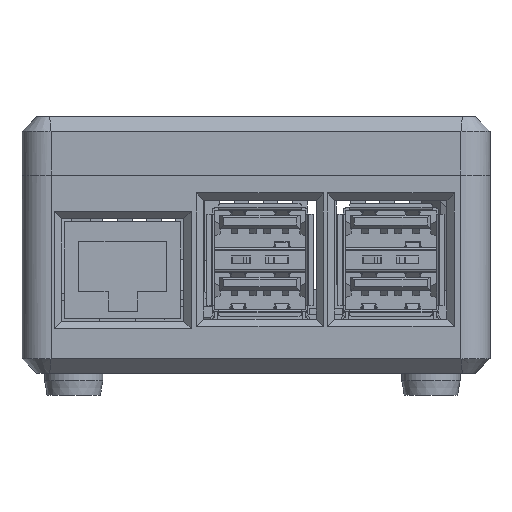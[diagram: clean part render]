
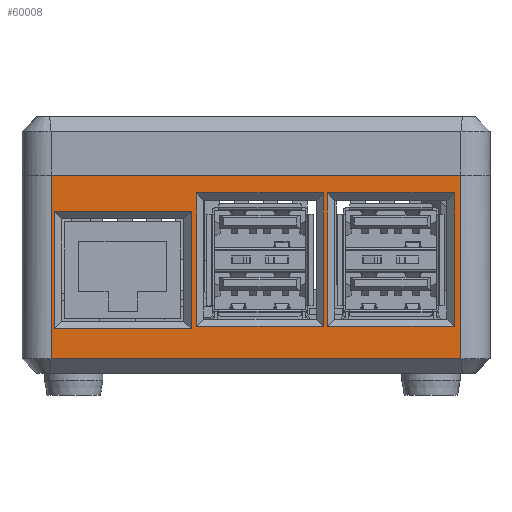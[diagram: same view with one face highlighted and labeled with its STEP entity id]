
A CAD part, front view. The second image highlights one B-rep face of the part: STEP entity #60008.
In plain terms, the highlighted planar face has unit normal (0, -1, 0).
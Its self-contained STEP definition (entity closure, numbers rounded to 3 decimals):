
#880=FACE_BOUND('',#9638,.T.);
#881=FACE_BOUND('',#9639,.T.);
#882=FACE_BOUND('',#9640,.T.);
#6100=FACE_OUTER_BOUND('',#9637,.T.);
#9637=EDGE_LOOP('',(#54206,#54207,#54208,#54209));
#9638=EDGE_LOOP('',(#54210,#54211,#54212,#54213));
#9639=EDGE_LOOP('',(#54214,#54215,#54216,#54217));
#9640=EDGE_LOOP('',(#54218,#54219,#54220,#54221));
#16246=LINE('',#98081,#23169);
#16537=LINE('',#98821,#23460);
#16541=LINE('',#98830,#23464);
#16545=LINE('',#98835,#23468);
#16546=LINE('',#98837,#23469);
#16549=LINE('',#98843,#23472);
#16550=LINE('',#98845,#23473);
#16551=LINE('',#98846,#23474);
#16552=LINE('',#98849,#23475);
#16553=LINE('',#98851,#23476);
#16554=LINE('',#98853,#23477);
#16555=LINE('',#98854,#23478);
#16556=LINE('',#98857,#23479);
#16557=LINE('',#98859,#23480);
#16558=LINE('',#98861,#23481);
#16559=LINE('',#98862,#23482);
#23169=VECTOR('',#80127,10.);
#23460=VECTOR('',#80884,10.);
#23464=VECTOR('',#80890,10.);
#23468=VECTOR('',#80896,10.);
#23469=VECTOR('',#80899,10.);
#23472=VECTOR('',#80906,10.);
#23473=VECTOR('',#80907,10.);
#23474=VECTOR('',#80908,10.);
#23475=VECTOR('',#80909,10.);
#23476=VECTOR('',#80910,10.);
#23477=VECTOR('',#80911,10.);
#23478=VECTOR('',#80912,10.);
#23479=VECTOR('',#80913,10.);
#23480=VECTOR('',#80914,10.);
#23481=VECTOR('',#80915,10.);
#23482=VECTOR('',#80916,10.);
#28888=VERTEX_POINT('',#98078);
#28889=VERTEX_POINT('',#98080);
#29086=VERTEX_POINT('',#98819);
#29087=VERTEX_POINT('',#98820);
#29090=VERTEX_POINT('',#98828);
#29091=VERTEX_POINT('',#98829);
#29092=VERTEX_POINT('',#98842);
#29093=VERTEX_POINT('',#98844);
#29094=VERTEX_POINT('',#98847);
#29095=VERTEX_POINT('',#98848);
#29096=VERTEX_POINT('',#98850);
#29097=VERTEX_POINT('',#98852);
#29098=VERTEX_POINT('',#98855);
#29099=VERTEX_POINT('',#98856);
#29100=VERTEX_POINT('',#98858);
#29101=VERTEX_POINT('',#98860);
#37139=EDGE_CURVE('',#28889,#28888,#16246,.T.);
#37501=EDGE_CURVE('',#29086,#29087,#16537,.T.);
#37505=EDGE_CURVE('',#29090,#29091,#16541,.T.);
#37509=EDGE_CURVE('',#29091,#29086,#16545,.T.);
#37510=EDGE_CURVE('',#29087,#29090,#16546,.T.);
#37513=EDGE_CURVE('',#29092,#28888,#16549,.T.);
#37514=EDGE_CURVE('',#29093,#29092,#16550,.T.);
#37515=EDGE_CURVE('',#28889,#29093,#16551,.T.);
#37516=EDGE_CURVE('',#29094,#29095,#16552,.T.);
#37517=EDGE_CURVE('',#29096,#29094,#16553,.T.);
#37518=EDGE_CURVE('',#29097,#29096,#16554,.T.);
#37519=EDGE_CURVE('',#29095,#29097,#16555,.T.);
#37520=EDGE_CURVE('',#29098,#29099,#16556,.T.);
#37521=EDGE_CURVE('',#29100,#29098,#16557,.T.);
#37522=EDGE_CURVE('',#29101,#29100,#16558,.T.);
#37523=EDGE_CURVE('',#29099,#29101,#16559,.T.);
#54206=ORIENTED_EDGE('',*,*,#37139,.T.);
#54207=ORIENTED_EDGE('',*,*,#37513,.F.);
#54208=ORIENTED_EDGE('',*,*,#37514,.F.);
#54209=ORIENTED_EDGE('',*,*,#37515,.F.);
#54210=ORIENTED_EDGE('',*,*,#37516,.F.);
#54211=ORIENTED_EDGE('',*,*,#37517,.F.);
#54212=ORIENTED_EDGE('',*,*,#37518,.F.);
#54213=ORIENTED_EDGE('',*,*,#37519,.F.);
#54214=ORIENTED_EDGE('',*,*,#37520,.F.);
#54215=ORIENTED_EDGE('',*,*,#37521,.F.);
#54216=ORIENTED_EDGE('',*,*,#37522,.F.);
#54217=ORIENTED_EDGE('',*,*,#37523,.F.);
#54218=ORIENTED_EDGE('',*,*,#37505,.F.);
#54219=ORIENTED_EDGE('',*,*,#37510,.F.);
#54220=ORIENTED_EDGE('',*,*,#37501,.F.);
#54221=ORIENTED_EDGE('',*,*,#37509,.F.);
#56918=PLANE('',#64900);
#60008=ADVANCED_FACE('',(#6100,#880,#881,#882),#56918,.T.);
#64900=AXIS2_PLACEMENT_3D('',#98841,#80904,#80905);
#80127=DIRECTION('',(-1.,0.,0.));
#80884=DIRECTION('',(0.,0.,1.));
#80890=DIRECTION('',(0.,0.,-1.));
#80896=DIRECTION('',(1.,0.,0.));
#80899=DIRECTION('',(-1.,0.,0.));
#80904=DIRECTION('center_axis',(0.,-1.,0.));
#80905=DIRECTION('ref_axis',(1.,0.,0.));
#80906=DIRECTION('',(0.,0.,1.));
#80907=DIRECTION('',(-1.,0.,0.));
#80908=DIRECTION('',(0.,0.,-1.));
#80909=DIRECTION('',(0.,0.,-1.));
#80910=DIRECTION('',(-1.,0.,0.));
#80911=DIRECTION('',(0.,0.,1.));
#80912=DIRECTION('',(1.,0.,0.));
#80913=DIRECTION('',(1.,0.,0.));
#80914=DIRECTION('',(0.,0.,-1.));
#80915=DIRECTION('',(-1.,0.,0.));
#80916=DIRECTION('',(0.,0.,1.));
#98078=CARTESIAN_POINT('',(-27.6,-47.,21.8));
#98080=CARTESIAN_POINT('',(28.6,-47.,21.8));
#98081=CARTESIAN_POINT('',(0.5,-47.,21.8));
#98819=CARTESIAN_POINT('',(27.7,-47.,1.05));
#98820=CARTESIAN_POINT('',(27.7,-47.,19.35));
#98821=CARTESIAN_POINT('',(27.7,-47.,6.475));
#98828=CARTESIAN_POINT('',(10.3,-47.,19.35));
#98829=CARTESIAN_POINT('',(10.3,-47.,1.05));
#98830=CARTESIAN_POINT('',(10.3,-47.,-1.675));
#98835=CARTESIAN_POINT('',(-2.45,-47.,1.05));
#98837=CARTESIAN_POINT('',(-10.15,-47.,19.35));
#98841=CARTESIAN_POINT('Origin',(-31.6,-47.,-5.4));
#98842=CARTESIAN_POINT('',(-27.6,-47.,-3.4));
#98843=CARTESIAN_POINT('',(-27.6,-47.,-5.4));
#98844=CARTESIAN_POINT('',(28.6,-47.,-3.4));
#98845=CARTESIAN_POINT('',(-15.55,-47.,-3.4));
#98846=CARTESIAN_POINT('',(28.6,-47.,-5.4));
#98847=CARTESIAN_POINT('',(-7.65,-47.,19.35));
#98848=CARTESIAN_POINT('',(-7.65,-47.,1.05));
#98849=CARTESIAN_POINT('',(-7.65,-47.,-1.675));
#98850=CARTESIAN_POINT('',(9.75,-47.,19.35));
#98851=CARTESIAN_POINT('',(-19.125,-47.,19.35));
#98852=CARTESIAN_POINT('',(9.75,-47.,1.05));
#98853=CARTESIAN_POINT('',(9.75,-47.,6.475));
#98854=CARTESIAN_POINT('',(-11.425,-47.,1.05));
#98855=CARTESIAN_POINT('',(-27.2,-47.,0.7));
#98856=CARTESIAN_POINT('',(-8.4,-47.,0.7));
#98857=CARTESIAN_POINT('',(-20.5,-47.,0.7));
#98858=CARTESIAN_POINT('',(-27.2,-47.,16.8));
#98859=CARTESIAN_POINT('',(-27.2,-47.,-1.85));
#98860=CARTESIAN_POINT('',(-8.4,-47.,16.8));
#98861=CARTESIAN_POINT('',(-28.9,-47.,16.8));
#98862=CARTESIAN_POINT('',(-8.4,-47.,5.2));
